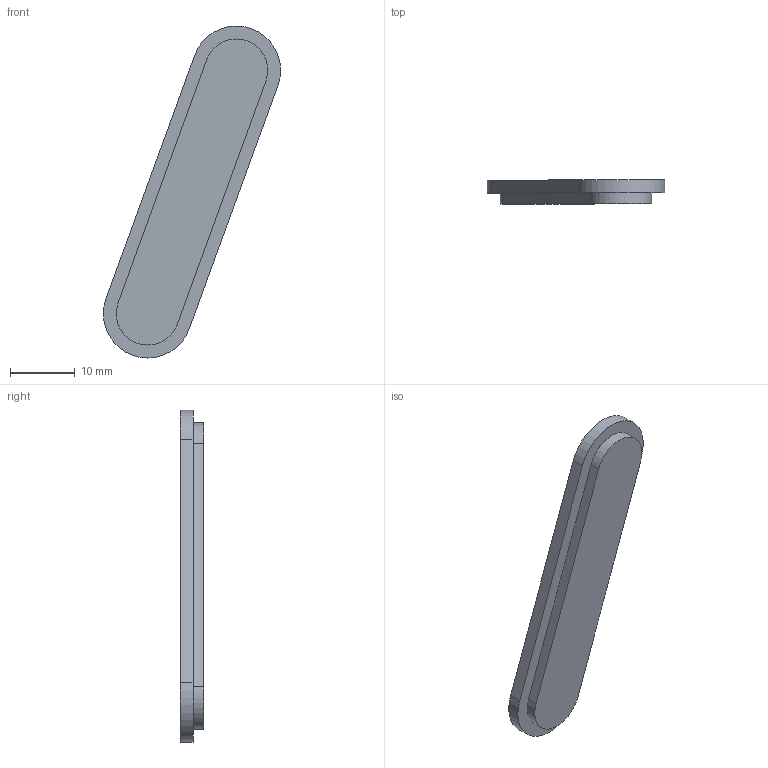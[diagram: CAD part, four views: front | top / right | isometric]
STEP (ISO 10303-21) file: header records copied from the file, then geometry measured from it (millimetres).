
FILE_DESCRIPTION(/* description */ (''),/* implementation_level */ '2;1');
FILE_NAME(/* name */ 'G:/Developer/Repos/Shield9-ASP2.1/STEP/Transparent Plate.step',/* time_stamp */ '2020-12-14T21:34:54-05:00',/* author */ (''),/* organization */ (''),/* preprocessor_version */ 'ST-DEVELOPER v18.1',/* originating_system */ 'Autodesk Translation Framework v9.7.1.1290',/* authorisation */ '');
FILE_SCHEMA (('AUTOMOTIVE_DESIGN { 1 0 10303 214 3 1 1 }'));
Length unit declared in the file: millimetre
Products named in the file (1): Transparent Plate
Bounding box: 27.38 x 3.68 x 51.29 mm (x, y, z)
Volume: 2168.2 mm3; surface area: 1822.8 mm2
Topology: 1 solids, 1 shells, 11 faces, 24 edges, 16 vertices
Faces by surface type: plane 7, cylinder 4
Entity records: 346 total; most frequent: DIRECTION 56, CARTESIAN_POINT 52, ORIENTED_EDGE 48, EDGE_CURVE 24, AXIS2_PLACEMENT_3D 20, LINE 16, VECTOR 16, VERTEX_POINT 16
